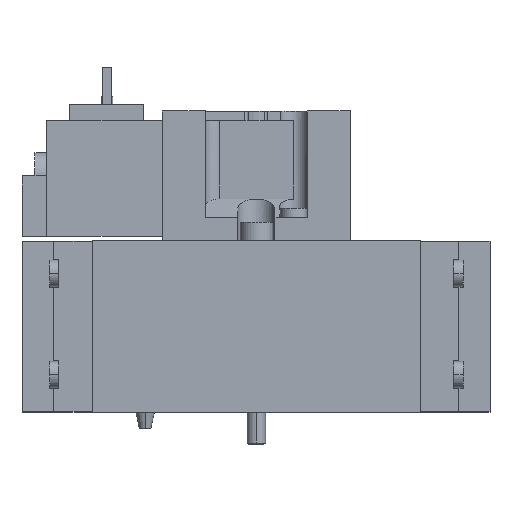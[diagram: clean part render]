
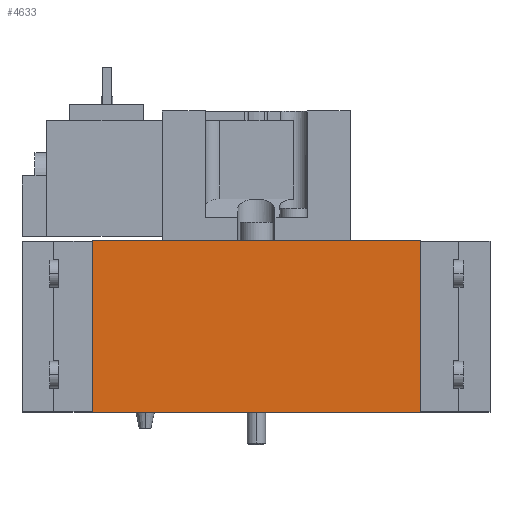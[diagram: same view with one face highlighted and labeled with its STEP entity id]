
A CAD part, top view. The second image highlights one B-rep face of the part: STEP entity #4633.
In plain terms, the highlighted planar face has unit normal (0, 0, 1).
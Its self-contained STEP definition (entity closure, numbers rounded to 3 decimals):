
#962=DIRECTION('',(0.,1.,0.));
#963=VECTOR('',#962,37.);
#964=CARTESIAN_POINT('',(-35.4,-18.5,13.25));
#965=LINE('',#964,#963);
#966=DIRECTION('',(-1.,0.,0.));
#967=VECTOR('',#966,70.8);
#968=CARTESIAN_POINT('',(35.4,18.5,13.25));
#969=LINE('',#968,#967);
#970=DIRECTION('',(0.,1.,0.));
#971=VECTOR('',#970,37.);
#972=CARTESIAN_POINT('',(35.4,-18.5,13.25));
#973=LINE('',#972,#971);
#974=DIRECTION('',(1.,0.,0.));
#975=VECTOR('',#974,70.8);
#976=CARTESIAN_POINT('',(-35.4,-18.5,13.25));
#977=LINE('',#976,#975);
#2652=CARTESIAN_POINT('',(35.4,-18.5,13.25));
#2653=CARTESIAN_POINT('',(35.4,18.5,13.25));
#2654=VERTEX_POINT('',#2652);
#2655=VERTEX_POINT('',#2653);
#2668=CARTESIAN_POINT('',(-35.4,-18.5,13.25));
#2669=CARTESIAN_POINT('',(-35.4,18.5,13.25));
#2670=VERTEX_POINT('',#2668);
#2671=VERTEX_POINT('',#2669);
#4622=CARTESIAN_POINT('',(0.,0.,13.25));
#4623=DIRECTION('',(0.,0.,1.));
#4624=DIRECTION('',(1.,0.,0.));
#4625=AXIS2_PLACEMENT_3D('',#4622,#4623,#4624);
#4626=PLANE('',#4625);
#4627=ORIENTED_EDGE('',*,*,#3330,.T.);
#4628=ORIENTED_EDGE('',*,*,#3940,.F.);
#4629=ORIENTED_EDGE('',*,*,#3991,.F.);
#4630=ORIENTED_EDGE('',*,*,#4597,.F.);
#4631=EDGE_LOOP('',(#4627,#4628,#4629,#4630));
#4632=FACE_OUTER_BOUND('',#4631,.F.);
#4633=ADVANCED_FACE('',(#4632),#4626,.T.);
#3330=EDGE_CURVE('',#2670,#2671,#965,.T.);
#3940=EDGE_CURVE('',#2655,#2671,#969,.T.);
#3991=EDGE_CURVE('',#2654,#2655,#973,.T.);
#4597=EDGE_CURVE('',#2670,#2654,#977,.T.);
